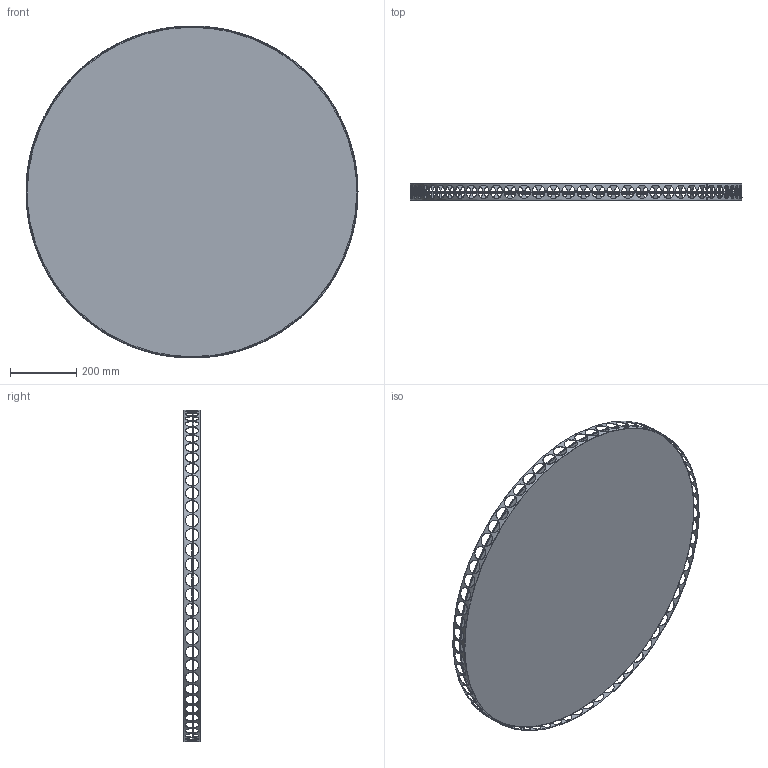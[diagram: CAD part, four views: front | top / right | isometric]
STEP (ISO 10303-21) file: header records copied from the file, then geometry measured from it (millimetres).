
FILE_DESCRIPTION(/* description */ (''),/* implementation_level */ '2;1');
FILE_NAME(/* name */ 'Reel_3D',/* time_stamp */ '2024-08-19T14:46:34+02:00',/* author */ (''),/* organization */ (''),/* preprocessor_version */ 'ST-DEVELOPER v16.5',/* originating_system */ '',/* authorisation */ '');
FILE_SCHEMA (('AUTOMOTIVE_DESIGN'));
Length unit declared in the file: millimetre
Products named in the file (4): Document; pattern mirror_003_03; pattern mirror_002_02; pattern mirror_001_02
Assembly tree (5 placements, depth 3):
  Document
    pattern mirror_003_03
      pattern mirror_002_02  x3
      pattern mirror_001_02
Bounding box: 1000 x 50 x 999.99 mm (x, y, z)
Volume: 3363737.2 mm3; surface area: 2016287.5 mm2
Topology: 5 solids, 5 shells, 599 faces, 1763 edges, 1174 vertices
Faces by surface type: bspline 371, plane 228
Entity records: 91852 total; most frequent: CARTESIAN_POINT 86226, ORIENTED_EDGE 1762, EDGE_CURVE 881, B_SPLINE_CURVE_WITH_KNOTS 713, VERTEX_POINT 586, EDGE_LOOP 439, ADVANCED_FACE 301, FACE_OUTER_BOUND 301
